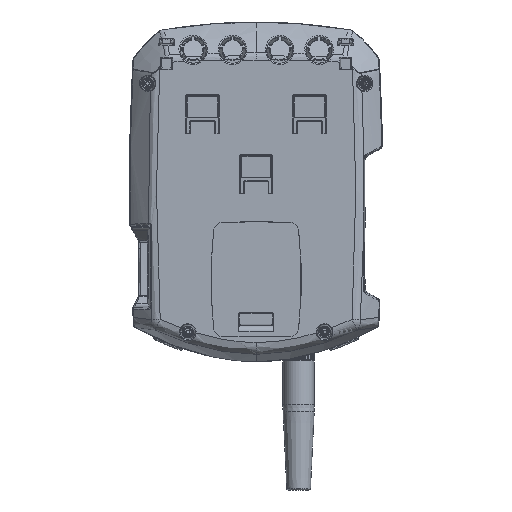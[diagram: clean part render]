
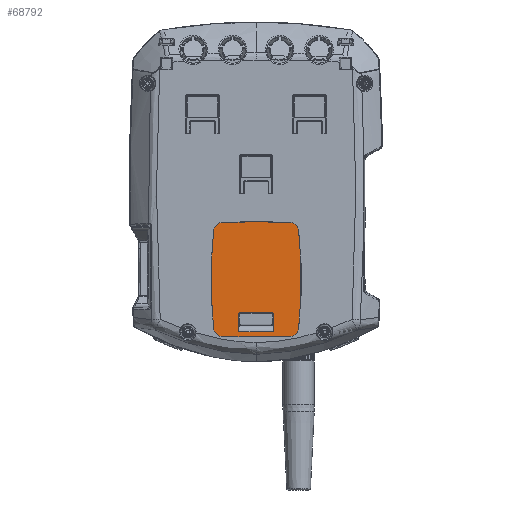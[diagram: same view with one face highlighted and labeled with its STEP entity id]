
A CAD part, front view. The second image highlights one B-rep face of the part: STEP entity #68792.
In plain terms, the highlighted planar face has unit normal (0, -1, 0).
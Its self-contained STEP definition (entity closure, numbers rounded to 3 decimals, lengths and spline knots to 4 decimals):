
#1659=FACE_BOUND('',#19060,.T.);
#1990=ELLIPSE('',#76362,0.0005,0.0005);
#1991=ELLIPSE('',#76363,0.0005,0.0005);
#3037=CIRCLE('',#76350,0.6841);
#3038=CIRCLE('',#76352,0.142);
#3039=CIRCLE('',#76354,0.6841);
#3040=CIRCLE('',#76356,0.142);
#3041=CIRCLE('',#76358,0.003);
#3042=CIRCLE('',#76359,0.003);
#3043=CIRCLE('',#76360,0.003);
#3044=CIRCLE('',#76361,0.003);
#5489=PLANE('',#76357);
#6955=LINE('',#105804,#10655);
#6958=LINE('',#105811,#10658);
#7318=LINE('',#115357,#11018);
#7319=LINE('',#115361,#11019);
#10655=VECTOR('',#82584,0.0056);
#10658=VECTOR('',#82591,0.0056);
#11018=VECTOR('',#83717,0.011);
#11019=VECTOR('',#83720,0.01);
#14810=FACE_OUTER_BOUND('',#19059,.T.);
#19059=EDGE_LOOP('',(#45263,#45264,#45265,#45266,#45267,#45268,#45269,#45270));
#19060=EDGE_LOOP('',(#45271,#45272,#45273,#45274,#45275,#45276));
#26973=VERTEX_POINT('',#105802);
#26974=VERTEX_POINT('',#105803);
#26975=VERTEX_POINT('',#105808);
#26976=VERTEX_POINT('',#105810);
#27757=VERTEX_POINT('',#115329);
#27758=VERTEX_POINT('',#115330);
#27759=VERTEX_POINT('',#115335);
#27760=VERTEX_POINT('',#115336);
#27761=VERTEX_POINT('',#115341);
#27762=VERTEX_POINT('',#115342);
#27763=VERTEX_POINT('',#115347);
#27764=VERTEX_POINT('',#115349);
#27765=VERTEX_POINT('',#115358);
#27766=VERTEX_POINT('',#115360);
#33435=EDGE_CURVE('',#26973,#26974,#6955,.T.);
#33439=EDGE_CURVE('',#26976,#26975,#6958,.T.);
#34447=EDGE_CURVE('',#27757,#27758,#3037,.T.);
#34450=EDGE_CURVE('',#27759,#27760,#3038,.T.);
#34453=EDGE_CURVE('',#27761,#27762,#3039,.T.);
#34457=EDGE_CURVE('',#27764,#27763,#3040,.T.);
#34459=EDGE_CURVE('',#27763,#27761,#3041,.F.);
#34460=EDGE_CURVE('',#27762,#27759,#3042,.F.);
#34461=EDGE_CURVE('',#27760,#27757,#3043,.F.);
#34462=EDGE_CURVE('',#27758,#27764,#3044,.F.);
#34463=EDGE_CURVE('',#26974,#26976,#7318,.T.);
#34464=EDGE_CURVE('',#26975,#27765,#1990,.T.);
#34465=EDGE_CURVE('',#27765,#27766,#7319,.T.);
#34466=EDGE_CURVE('',#27766,#26973,#1991,.T.);
#45263=ORIENTED_EDGE('',*,*,#34457,.T.);
#45264=ORIENTED_EDGE('',*,*,#34459,.T.);
#45265=ORIENTED_EDGE('',*,*,#34453,.T.);
#45266=ORIENTED_EDGE('',*,*,#34460,.T.);
#45267=ORIENTED_EDGE('',*,*,#34450,.T.);
#45268=ORIENTED_EDGE('',*,*,#34461,.T.);
#45269=ORIENTED_EDGE('',*,*,#34447,.T.);
#45270=ORIENTED_EDGE('',*,*,#34462,.T.);
#45271=ORIENTED_EDGE('',*,*,#34463,.T.);
#45272=ORIENTED_EDGE('',*,*,#33439,.T.);
#45273=ORIENTED_EDGE('',*,*,#34464,.T.);
#45274=ORIENTED_EDGE('',*,*,#34465,.T.);
#45275=ORIENTED_EDGE('',*,*,#34466,.T.);
#45276=ORIENTED_EDGE('',*,*,#33435,.T.);
#68792=ADVANCED_FACE('',(#14810,#1659),#5489,.F.);
#76350=AXIS2_PLACEMENT_3D('',#115331,#83685,#83686);
#76352=AXIS2_PLACEMENT_3D('',#115337,#83691,#83692);
#76354=AXIS2_PLACEMENT_3D('',#115343,#83697,#83698);
#76356=AXIS2_PLACEMENT_3D('',#115350,#83704,#83705);
#76357=AXIS2_PLACEMENT_3D('',#115352,#83707,#83708);
#76358=AXIS2_PLACEMENT_3D('',#115353,#83709,#83710);
#76359=AXIS2_PLACEMENT_3D('',#115354,#83711,#83712);
#76360=AXIS2_PLACEMENT_3D('',#115355,#83713,#83714);
#76361=AXIS2_PLACEMENT_3D('',#115356,#83715,#83716);
#76362=AXIS2_PLACEMENT_3D('',#115359,#83718,#83719);
#76363=AXIS2_PLACEMENT_3D('',#115362,#83721,#83722);
#82584=DIRECTION('',(0.,0.,-1.));
#82591=DIRECTION('',(0.,0.,1.));
#83685=DIRECTION('center_axis',(0.,-1.,0.));
#83686=DIRECTION('ref_axis',(0.,0.,1.));
#83691=DIRECTION('center_axis',(0.,-1.,0.));
#83692=DIRECTION('ref_axis',(0.,0.,-1.));
#83697=DIRECTION('center_axis',(0.,-1.,0.));
#83698=DIRECTION('ref_axis',(0.,0.,-1.));
#83704=DIRECTION('center_axis',(0.,-1.,0.));
#83705=DIRECTION('ref_axis',(0.,0.,-1.));
#83707=DIRECTION('center_axis',(0.,1.,0.));
#83708=DIRECTION('ref_axis',(0.,0.,1.));
#83709=DIRECTION('center_axis',(0.,1.,0.));
#83710=DIRECTION('ref_axis',(0.,0.,1.));
#83711=DIRECTION('center_axis',(0.,1.,0.));
#83712=DIRECTION('ref_axis',(0.,0.,1.));
#83713=DIRECTION('center_axis',(0.,1.,0.));
#83714=DIRECTION('ref_axis',(0.,0.,1.));
#83715=DIRECTION('center_axis',(0.,1.,0.));
#83716=DIRECTION('ref_axis',(0.,0.,1.));
#83717=DIRECTION('',(-1.,0.,0.));
#83718=DIRECTION('center_axis',(0.,1.,0.));
#83719=DIRECTION('ref_axis',(-0.707,0.,0.707));
#83720=DIRECTION('',(1.,0.,0.));
#83721=DIRECTION('center_axis',(0.,1.,0.));
#83722=DIRECTION('ref_axis',(0.707,0.,0.707));
#105802=CARTESIAN_POINT('',(0.0055,-0.0102,-0.0813));
#105803=CARTESIAN_POINT('',(0.0055,-0.0102,-0.0869));
#105804=CARTESIAN_POINT('',(0.0055,-0.0102,-0.0813));
#105808=CARTESIAN_POINT('',(-0.0055,-0.0102,-0.0813));
#105810=CARTESIAN_POINT('',(-0.0055,-0.0102,-0.0869));
#105811=CARTESIAN_POINT('',(-0.0055,-0.0102,-0.0869));
#115329=CARTESIAN_POINT('',(0.0106,-0.0102,-0.0521));
#115330=CARTESIAN_POINT('',(-0.0106,-0.0102,-0.0521));
#115331=CARTESIAN_POINT('Origin',(0.,-0.0102,-0.7361));
#115335=CARTESIAN_POINT('',(0.0135,-0.0102,-0.0857));
#115336=CARTESIAN_POINT('',(0.0135,-0.0102,-0.0548));
#115337=CARTESIAN_POINT('Origin',(-0.1277,-0.0102,-0.0703));
#115341=CARTESIAN_POINT('',(-0.0106,-0.0102,-0.0884));
#115342=CARTESIAN_POINT('',(0.0106,-0.0102,-0.0884));
#115343=CARTESIAN_POINT('Origin',(0.,-0.0102,0.5956));
#115347=CARTESIAN_POINT('',(-0.0135,-0.0102,-0.0857));
#115349=CARTESIAN_POINT('',(-0.0135,-0.0102,-0.0548));
#115350=CARTESIAN_POINT('Origin',(0.1277,-0.0102,-0.0703));
#115352=CARTESIAN_POINT('Origin',(-0.0638,-0.0102,-0.4032));
#115353=CARTESIAN_POINT('Origin',(-0.0105,-0.0102,-0.0854));
#115354=CARTESIAN_POINT('Origin',(0.0105,-0.0102,-0.0854));
#115355=CARTESIAN_POINT('Origin',(0.0105,-0.0102,-0.0551));
#115356=CARTESIAN_POINT('Origin',(-0.0105,-0.0102,-0.0551));
#115357=CARTESIAN_POINT('',(0.0055,-0.0102,-0.0869));
#115358=CARTESIAN_POINT('',(-0.005,-0.0102,-0.0809));
#115359=CARTESIAN_POINT('Origin',(-0.005,-0.0102,-0.0814));
#115360=CARTESIAN_POINT('',(0.005,-0.0102,-0.0809));
#115361=CARTESIAN_POINT('',(-0.005,-0.0102,-0.0809));
#115362=CARTESIAN_POINT('Origin',(0.005,-0.0102,-0.0814));
